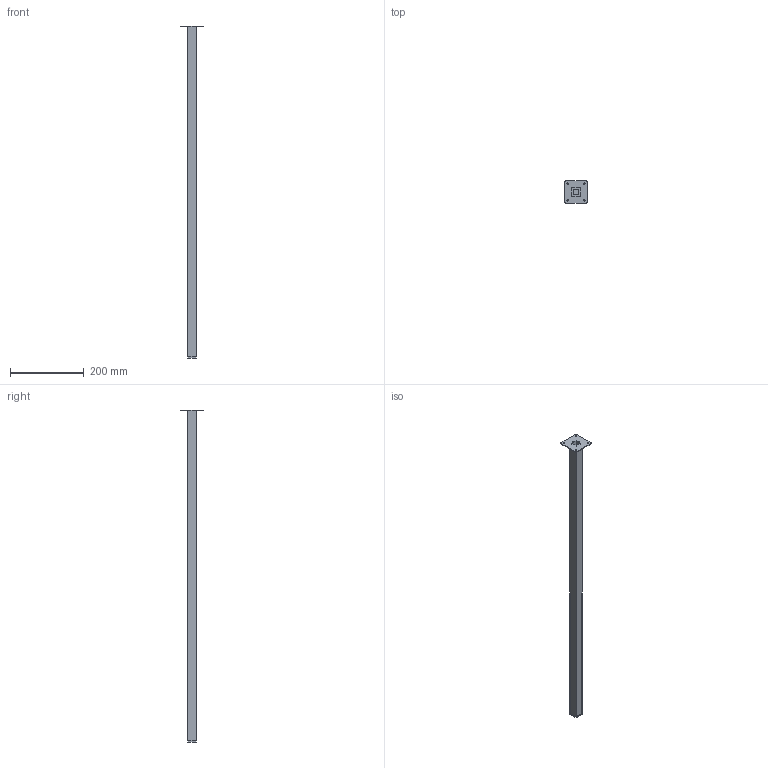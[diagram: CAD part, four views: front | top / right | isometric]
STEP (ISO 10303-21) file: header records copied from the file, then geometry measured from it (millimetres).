
FILE_DESCRIPTION( ( '' ), '1' );
FILE_NAME( 'D:/temp/hettich_stp/hettich/6.5_furniture_legs/table_legs/46266.stp', '2013-02-26T12:27:20', ( '' ), ( '' ), ' ', ' ', ' ' );
FILE_SCHEMA( ( 'automotive_design' ) );
Length unit declared in the file: millimetre
Products named in the file (1): 1
Bounding box: 60 x 60 x 900 mm (x, y, z)
Volume: 90630.4 mm3; surface area: 173398.9 mm2
Topology: 1 solids, 1 shells, 43 faces, 108 edges, 72 vertices
Faces by surface type: plane 31, cylinder 12
Entity records: 2570 total; most frequent: STYLED_ITEM 224, PRESENTATION_STYLE_ASSIGNMENT 224, CARTESIAN_POINT 224, COLOUR_RGB 224, DIRECTION 220, ORIENTED_EDGE 216, EDGE_CURVE 108, CURVE_STYLE 108
